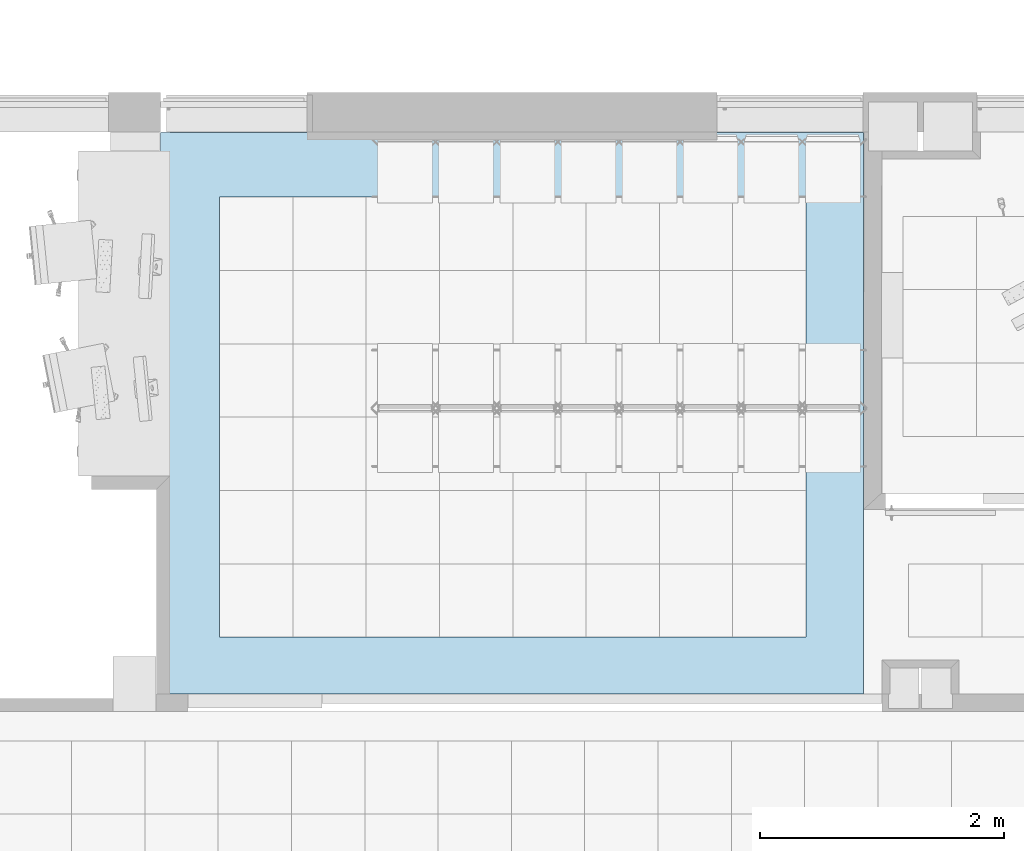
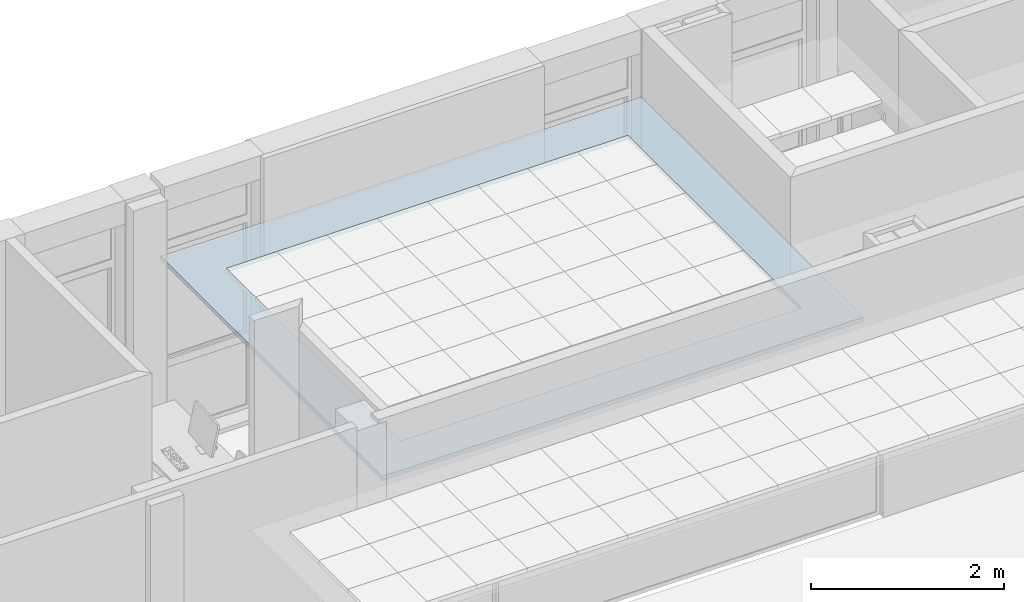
# One storey, part 1 of 68: 1 slab.
"""IFC2X3 building model written with IfcOpenShell, lengths in millimetres."""

from ifc_helpers import new_model, entity, si_unit, converted_unit, derived_unit, money_unit, direction, frame, origin_with_axes, place, context, subcontext, project, spatial, polyline, outline, extrude, material, layer, layer_set, layer_usage, type_object, element, save


model = new_model("IFC2X3")

# Units and contexts
model_context = context("Model", 3, precision=0.01, world=origin_with_axes(), true_north=direction((0.0, 1.0)))
body_context = subcontext(model_context, "Body", "Model", "MODEL_VIEW")
ifc_project = project(units=[si_unit("LENGTHUNIT", "METRE", prefix="MILLI"), si_unit("AREAUNIT", "SQUARE_METRE"), si_unit("VOLUMEUNIT", "CUBIC_METRE"), converted_unit("PLANEANGLEUNIT", "DEGREE", entity("IfcPlaneAngleMeasure", 0.0174532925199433), si_unit("PLANEANGLEUNIT", "RADIAN"), dimensions=[0, 0, 0, 0, 0, 0, 0]), money_unit("USD"), converted_unit("TIMEUNIT", "Year", entity("IfcTimeMeasure", 31557600.0), si_unit("TIMEUNIT", "SECOND"), dimensions=[0, 0, 1, 0, 0, 0, 0]), si_unit("MASSUNIT", "GRAM", prefix="KILO"), si_unit("THERMODYNAMICTEMPERATUREUNIT", "DEGREE_CELSIUS"), si_unit("LUMINOUSINTENSITYUNIT", "LUMEN"), si_unit("ENERGYUNIT", "JOULE", prefix="MEGA"), derived_unit("THERMALCONDUCTANCEUNIT", [(si_unit("POWERUNIT", "WATT"), 1), (si_unit("LENGTHUNIT", "METRE"), -1), (si_unit("THERMODYNAMICTEMPERATUREUNIT", "KELVIN"), -1)]), derived_unit("SPECIFICHEATCAPACITYUNIT", [(si_unit("ENERGYUNIT", "JOULE"), 1), (si_unit("MASSUNIT", "GRAM", prefix="KILO"), -1), (si_unit("THERMODYNAMICTEMPERATUREUNIT", "KELVIN"), -1)]), derived_unit("MASSDENSITYUNIT", [(si_unit("MASSUNIT", "GRAM", prefix="KILO"), 1), (si_unit("VOLUMEUNIT", "CUBIC_METRE"), -1)])], contexts=[model_context])

# Site, building, storey
site_placement = place(None, origin_with_axes())
site = spatial("IfcSite", under=ifc_project, at=site_placement, Name="Sitio", CompositionType="ELEMENT")
building_placement = place(site_placement, origin_with_axes())
building = spatial("IfcBuilding", under=site, at=building_placement, Name="Construcción", CompositionType="ELEMENT")
storey_placement = place(building_placement, origin_with_axes())
storey = spatial("IfcBuildingStorey", under=building, at=storey_placement, Name="PLANTA 1ª", CompositionType="ELEMENT", Elevation=0.0)

# Slab
ifc_material = material(Name="ARQ_CG064_CelRas_Guix_Continu")
ifc_layer = layer(ifc_material, 53.0, ventilated="UNKNOWN")
ifc_layer_set = layer_set([ifc_layer], Name="ARQ_CG064_CelRas_Guix_Continu 53")
ifc_layer_usage = layer_usage(ifc_layer_set, "AXIS3", "NEGATIVE", 53.0)
slab_type = type_object("IfcSlabType", Name="ARQ_CG064_CelRas_Guix_Continu 53", PredefinedType="NOTDEFINED")
slab_placement = place(storey_placement, frame((-18840.60853753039, -16937.97582371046, 2500.0), z_axis=(0.0, 0.0, 1.0), x_axis=(1.0, 0.0, 0.0)))
element("IfcSlab", 1, at=slab_placement, inside=storey, type_object=slab_type, material=ifc_layer_usage, Name="SLA - 013", PredefinedType="NOTDEFINED", context=body_context, shape_type="SweptSolid", body=[
    extrude(outline(polyline([(0.0, 0.0), (5751.312351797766, 0.0), (5751.312351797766, 4595.157134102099), (0.0, 4595.157134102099), (0.0, 0.0)]), holes=[polyline([(481.8551808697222, 4063.919911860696), (5281.855180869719, 4063.919911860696), (5281.855180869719, 463.9199118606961), (481.8551808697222, 463.9199118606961), (481.8551808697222, 4063.919911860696)])]), frame((0.0, 0.0, -53.0), z_axis=(0.0, 0.0, 1.0), x_axis=(1.0, 0.0, 0.0)), (0.0, 0.0, 1.0), 53.0),
])

save(model, "model.ifc")
